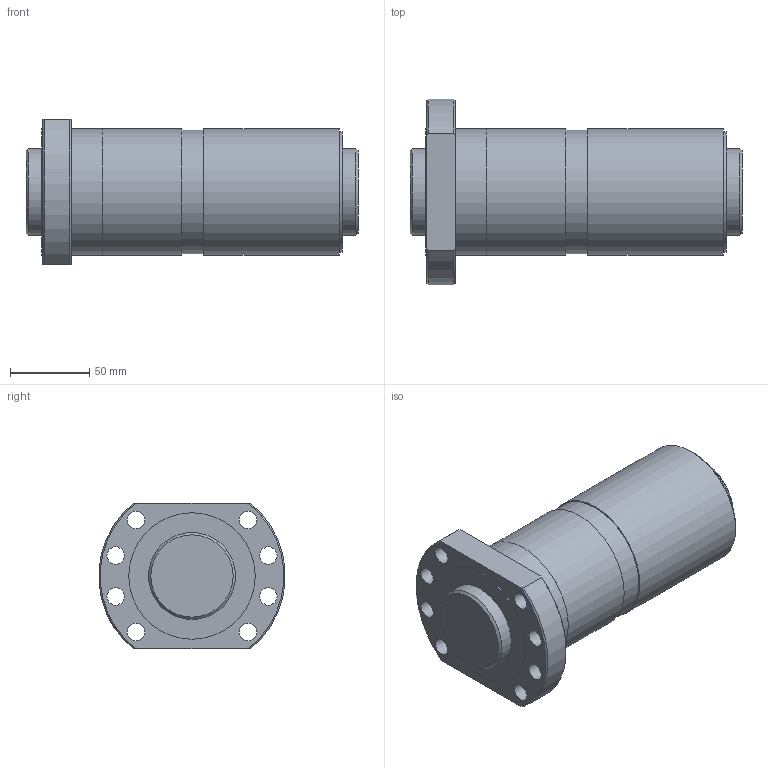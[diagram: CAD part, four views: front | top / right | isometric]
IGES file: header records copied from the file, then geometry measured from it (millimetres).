
Start section: Data from Parasolid IGES Translator 26.0.171, Copyright(c) 2006 Siemens PLM Software. All Rights Reserved.
Global section: file name: SDAN5520VX-4G0+210LC0(0G000).igs; native system: By Siemens PLM Incorporated; preprocessor: XPlus GENERIC/IGES 26.0.171; author: Noname; organization: Noname; date: 20240704.102228; units: millimetre
Bounding box: 210 x 117.61 x 92 mm (x, y, z)
Surface area: 142387 mm2 (no closed solid volume)
Topology: 0 solids, 0 shells, 41 faces, 198 edges, 177 vertices
Faces by surface type: revolution 28, extrusion 13
